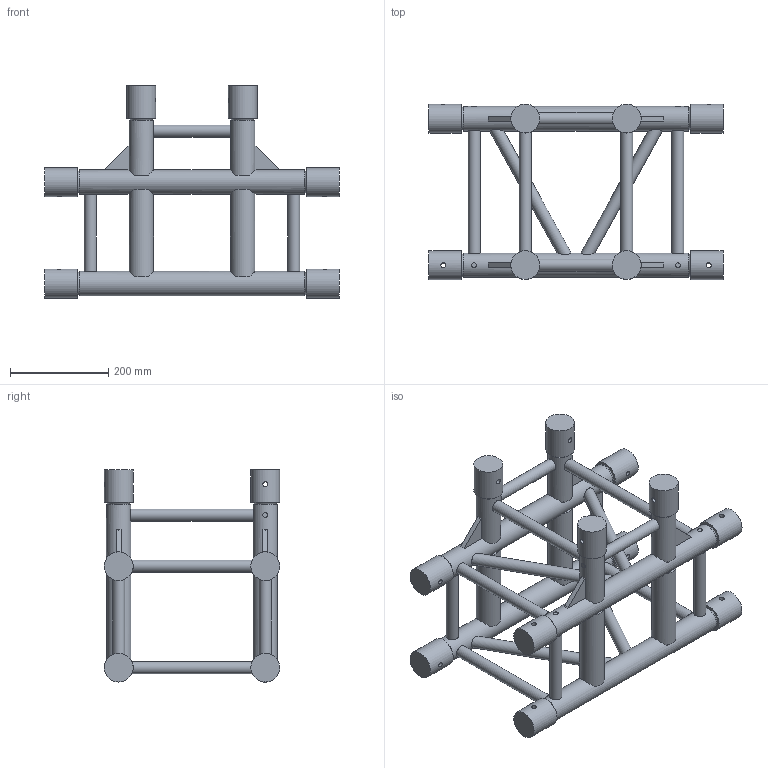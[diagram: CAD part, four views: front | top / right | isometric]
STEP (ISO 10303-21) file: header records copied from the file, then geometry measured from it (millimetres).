
FILE_DESCRIPTION(/* description */ (''),/* implementation_level */ '2;1');
FILE_NAME(/* name */ 'C:\Users\adrian.toca\Desktop\111100014.stp',/* time_stamp */ '2016-12-09T14:58:04+02:00',/* author */ ('adrian.toca'),/* organization */ (''),/* preprocessor_version */ 'ST-DEVELOPER v15.6',/* originating_system */ 'Autodesk Inventor 2015',/* authorisation */ '');
FILE_SCHEMA (('AUTOMOTIVE_DESIGN { 1 0 10303 214 3 1 1 }'));
Length unit declared in the file: millimetre
Products named in the file (1): 260031336
Bounding box: 600 x 357.8 x 432.9 mm (x, y, z)
Volume: 9510407.6 mm3; surface area: 967873.6 mm2
Topology: 5 solids, 8 shells, 276 faces, 560 edges, 325 vertices
Faces by surface type: plane 164, cylinder 100, cone 12
Full cylindrical faces by diameter (mm): 10 x12, 25 x16, 50 x12, 58.8 x12
Entity records: 8965 total; most frequent: CARTESIAN_POINT 3065, DIRECTION 1150, ORIENTED_EDGE 1008, AXIS2_PLACEMENT_3D 517, EDGE_CURVE 460, EDGE_LOOP 444, VERTEX_POINT 312, STYLED_ITEM 277
